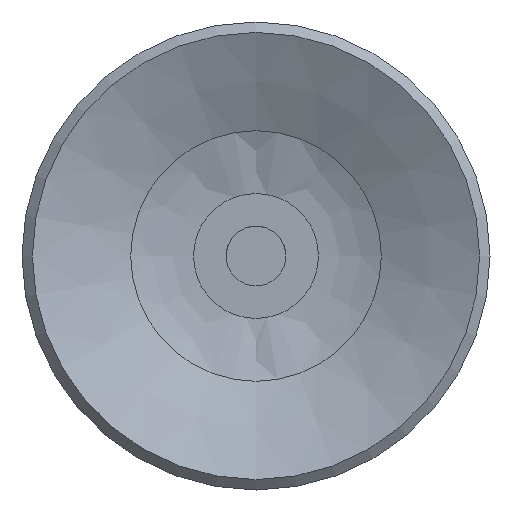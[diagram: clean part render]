
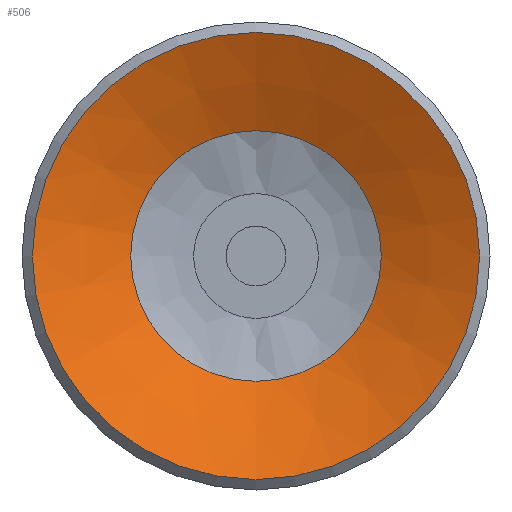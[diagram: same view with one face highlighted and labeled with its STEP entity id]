
A CAD part, front view. The second image highlights one B-rep face of the part: STEP entity #506.
In plain terms, the highlighted conical face has half-angle 65.056 degrees and reference radius 3.2 mm.
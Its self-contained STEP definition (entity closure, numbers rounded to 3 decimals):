
#506=ADVANCED_FACE('',(#780,#781),#782,.F.);
#780=FACE_BOUND('',#1067,.T.);
#781=FACE_OUTER_BOUND('',#1068,.T.);
#782=CONICAL_SURFACE('',#1069,3.2,1.135);
#1067=EDGE_LOOP('',(#1853));
#1068=EDGE_LOOP('',(#1854));
#1069=AXIS2_PLACEMENT_3D('',#1855,#1856,#1857);
#1853=ORIENTED_EDGE('',*,*,#2091,.T.);
#1854=ORIENTED_EDGE('',*,*,#2084,.T.);
#1855=CARTESIAN_POINT('',(0.0,7.896,0.0));
#1856=DIRECTION('',(-0.0,-1.0,0.));
#1857=DIRECTION('',(0.0,0.,-1.0));
#2084=EDGE_CURVE('',#2430,#2430,#2431,.T.);
#2091=EDGE_CURVE('',#2444,#2444,#2445,.T.);
#2430=VERTEX_POINT('',#3210);
#2431=CIRCLE('',#3211,7.5);
#2444=VERTEX_POINT('',#3224);
#2445=CIRCLE('',#3225,4.203);
#3210=CARTESIAN_POINT('',(0.0,5.896,-7.5));
#3211=AXIS2_PLACEMENT_3D('',#3513,#3514,#3515);
#3224=CARTESIAN_POINT('',(0.0,7.43,-4.203));
#3225=AXIS2_PLACEMENT_3D('',#3534,#3535,#3536);
#3513=CARTESIAN_POINT('',(0.0,5.896,0.0));
#3514=DIRECTION('',(0.0,-1.0,0.));
#3515=DIRECTION('',(0.0,0.,-1.0));
#3534=CARTESIAN_POINT('',(0.0,7.43,0.0));
#3535=DIRECTION('',(0.0,1.0,0.));
#3536=DIRECTION('',(0.0,0.,-1.0));
